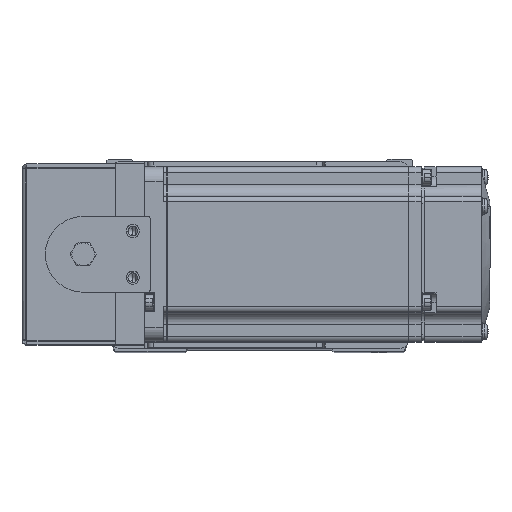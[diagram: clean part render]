
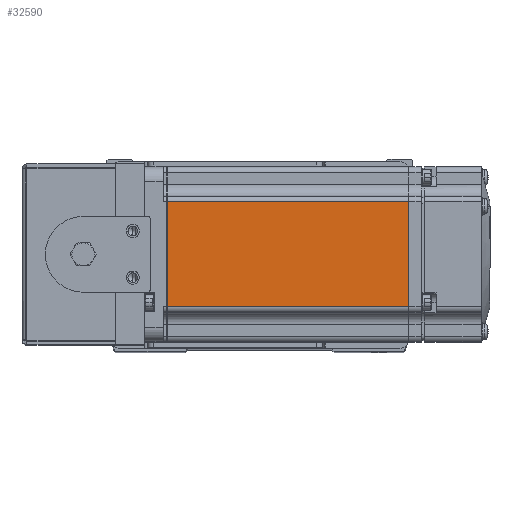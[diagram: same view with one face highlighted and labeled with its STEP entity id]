
A CAD part, top view. The second image highlights one B-rep face of the part: STEP entity #32590.
In plain terms, the highlighted planar face has unit normal (0, 0, 1) as drawn and (0, -1, 0) by its records, which use the part's own axes.
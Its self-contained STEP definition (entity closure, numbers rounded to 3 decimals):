
#407 = FACE_OUTER_BOUND ( 'NONE', #10115, .T. ) ;
#555 = AXIS2_PLACEMENT_3D ( 'NONE', #28304, #39665, #7832 ) ;
#3304 = CARTESIAN_POINT ( 'NONE',  ( -90.45, -30., 18. ) ) ;
#6457 = CARTESIAN_POINT ( 'NONE',  ( -7.75, -30., 18. ) ) ;
#6836 = CARTESIAN_POINT ( 'NONE',  ( -90.45, -30., 0. ) ) ;
#7832 = DIRECTION ( 'NONE',  ( 0., 0., -1. ) ) ;
#8874 = DIRECTION ( 'NONE',  ( -1., 0., 0. ) ) ;
#10115 = EDGE_LOOP ( 'NONE', ( #10718, #37759, #19074, #11291 ) ) ;
#10718 = ORIENTED_EDGE ( 'NONE', *, *, #23312, .F. ) ;
#10900 = VERTEX_POINT ( 'NONE', #27546 ) ;
#11291 = ORIENTED_EDGE ( 'NONE', *, *, #37260, .F. ) ;
#12980 = VECTOR ( 'NONE', #8874, 1000. ) ;
#15458 = VERTEX_POINT ( 'NONE', #3304 ) ;
#17489 = LINE ( 'NONE', #6836, #31465 ) ;
#19074 = ORIENTED_EDGE ( 'NONE', *, *, #28045, .T. ) ;
#20799 = DIRECTION ( 'NONE',  ( -1., 0., 0. ) ) ;
#21232 = LINE ( 'NONE', #33013, #22167 ) ;
#22167 = VECTOR ( 'NONE', #42628, 1000. ) ;
#23043 = LINE ( 'NONE', #37222, #12980 ) ;
#23312 = EDGE_CURVE ( 'NONE', #37900, #42691, #21232, .T. ) ;
#24327 = CARTESIAN_POINT ( 'NONE',  ( -7.75, -30., -18. ) ) ;
#24514 = CARTESIAN_POINT ( 'NONE',  ( -6.5, -30., -18. ) ) ;
#25480 = PLANE ( 'NONE',  #555 ) ;
#27546 = CARTESIAN_POINT ( 'NONE',  ( -90.45, -30., -18. ) ) ;
#27976 = DIRECTION ( 'NONE',  ( 0., 0., -1. ) ) ;
#28005 = LINE ( 'NONE', #24514, #31474 ) ;
#28045 = EDGE_CURVE ( 'NONE', #15458, #10900, #17489, .T. ) ;
#28304 = CARTESIAN_POINT ( 'NONE',  ( -6.5, -30., -25. ) ) ;
#30629 = EDGE_CURVE ( 'NONE', #37900, #15458, #23043, .T. ) ;
#31465 = VECTOR ( 'NONE', #27976, 1000. ) ;
#31474 = VECTOR ( 'NONE', #20799, 1000. ) ;
#32590 = ADVANCED_FACE ( 'NONE', ( #407 ), #25480, .T. ) ;
#33013 = CARTESIAN_POINT ( 'NONE',  ( -7.75, -30., 0. ) ) ;
#37222 = CARTESIAN_POINT ( 'NONE',  ( -6.5, -30., 18. ) ) ;
#37260 = EDGE_CURVE ( 'NONE', #42691, #10900, #28005, .T. ) ;
#37759 = ORIENTED_EDGE ( 'NONE', *, *, #30629, .T. ) ;
#37900 = VERTEX_POINT ( 'NONE', #6457 ) ;
#39665 = DIRECTION ( 'NONE',  ( 0., -1., 0. ) ) ;
#42628 = DIRECTION ( 'NONE',  ( 0., 0., -1. ) ) ;
#42691 = VERTEX_POINT ( 'NONE', #24327 ) ;
